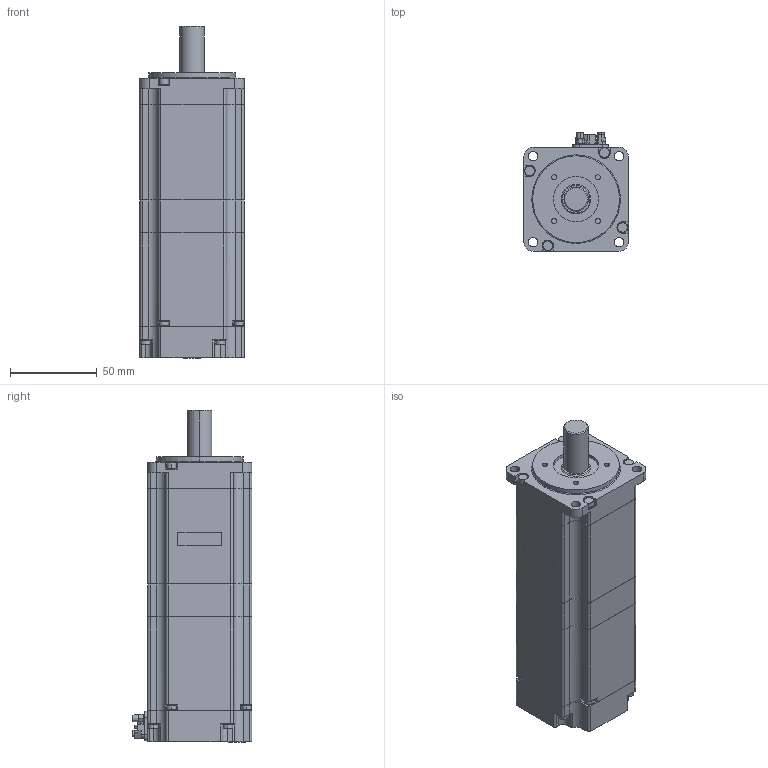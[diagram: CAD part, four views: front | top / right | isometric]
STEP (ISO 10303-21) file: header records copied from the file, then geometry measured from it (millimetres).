
FILE_DESCRIPTION (( 'STEP AP214' ), '1' );
FILE_NAME ('sgmxj_06aua2ca_.STEP', '2021-07-13T01:21:00', ( '' ), ( '' ), 'SwSTEP 2.0', 'SolidWorks 2016', '' );
FILE_SCHEMA (( 'AUTOMOTIVE_DESIGN' ));
Length unit declared in the file: millimetre
Products named in the file (1): sgmxj_06aua2ca_
Bounding box: 60.1 x 68.8 x 191.1 mm (x, y, z)
Volume: 521655 mm3; surface area: 49536.4 mm2
Topology: 1 solids, 1 shells, 519 faces, 1374 edges, 912 vertices
Faces by surface type: plane 296, cylinder 217, cone 4, torus 2
Entity records: 21927 total; most frequent: DIRECTION 2870, CARTESIAN_POINT 2806, ORIENTED_EDGE 2748, EDGE_CURVE 1374, AXIS2_PLACEMENT_3D 976, LINE 918, VECTOR 918, VERTEX_POINT 912
